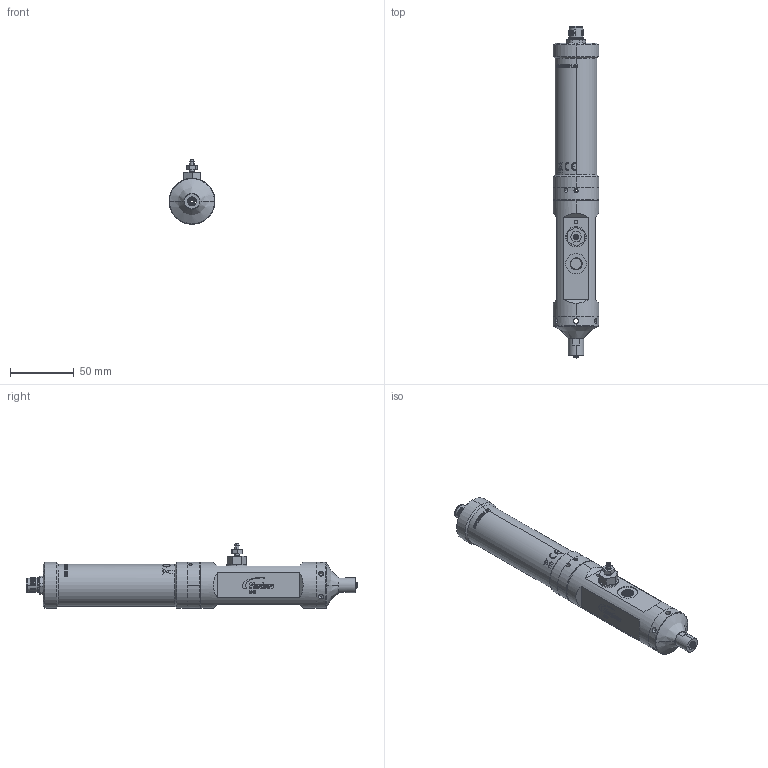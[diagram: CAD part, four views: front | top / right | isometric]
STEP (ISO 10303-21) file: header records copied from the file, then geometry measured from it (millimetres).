
FILE_DESCRIPTION (( 'STEP AP214' ), '1' );
FILE_NAME ('NORDSONEFD-7364197 PUMP, 1K, 797PCP, 0.01CC REV,. FFKM.STEP', '2020-04-20T10:35:34', ( '' ), ( '' ), 'SwSTEP 2.0', 'SolidWorks 2019', '' );
FILE_SCHEMA (( 'AUTOMOTIVE_DESIGN' ));
Length unit declared in the file: inch
Products named in the file (1): NORDSONEFD-7364197 PUMP, 1K, 797PCP, 0.01CC REV,. FFKM
Bounding box: 36 x 261.13 x 50.55 mm (x, y, z)
Surface area: 32591.8 mm2 (no closed solid volume)
Topology: 0 solids, 23 shells, 483 faces, 1907 edges, 1491 vertices
Faces by surface type: cylinder 229, plane 127, bspline 67, cone 28, sphere 18, torus 14
Entity records: 50733 total; most frequent: CARTESIAN_POINT 34884, ORIENTED_EDGE 3315, DIRECTION 2085, EDGE_CURVE 1871, VERTEX_POINT 1473, AXIS2_PLACEMENT_3D 741, EDGE_LOOP 604, LINE 603
